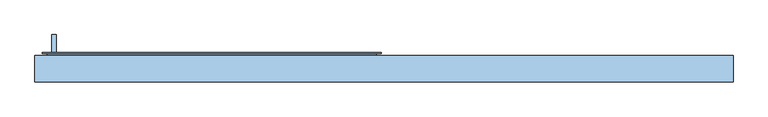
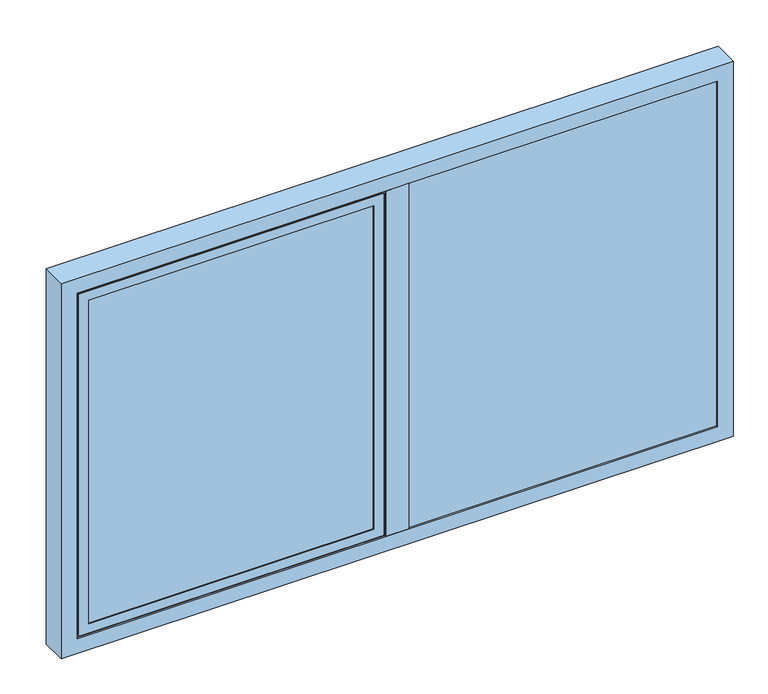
"""IFC4 building model written with IfcOpenShell, lengths in millimetres: window geometry, Reynaers_MasterLine 10_Window_Inward Opening_Combined : Reynaers_MasterLine 10_Window_Inward Opening_Combined."""

from ifc_helpers import new_model, si_unit, frame, origin, place, context, project, spatial, polyline, outline, extrude, faceted_brep, source, transform, mapped, element, save


def window_5ffe221b(model_context):
    return source(origin(), model_context, "Body", "SolidModel", [
        extrude(outline(polyline([(102.0, 1570.0), (102.0, 1585.0), (167.0, 1585.0), (167.0, 1450.0), (152.0, 1450.0), (152.0, 1570.0), (102.0, 1570.0)])), frame((-1208.0, 0.0, 0.0), z_axis=(1.0, 0.0, 0.0), x_axis=(0.0, 1.0, 0.0)), (0.0, 0.0, 1.0), 15.0),
        faceted_brep([(16.5, -1.0, 853.0), (-16.5, -1.0, 853.0), (-16.5, 92.0, 853.0), (16.5, 92.0, 853.0), (-16.5, -1.0, 2287.0), (16.5, -1.0, 2287.0), (16.5, 92.0, 2287.0), (-16.5, 92.0, 2287.0), (43.5, -5.0, 880.0), (43.5, -1.0, 880.0), (43.5, -1.0, 2260.0), (43.5, -5.0, 2260.0), (16.5, -1.0, 880.0), (16.5, -1.0, 2260.0), (-16.5, -1.0, 880.0), (-16.5, -1.0, 2260.0), (-43.5, -1.0, 880.0), (-43.5, -1.0, 2260.0), (-43.5, -5.0, 880.0), (-43.5, -5.0, 2260.0)], [[[0, 1, 2, 3]], [[4, 5, 6, 7]], [[8, 9, 10, 11]], [[9, 12, 13, 10]], [[3, 6, 5, 13, 12, 0]], [[2, 7, 6, 3]], [[1, 14, 15, 4, 7, 2]], [[14, 16, 17, 15]], [[16, 18, 19, 17]], [[11, 19, 18, 8]], [[13, 5, 4, 15]], [[14, 1, 0, 12]], [[12, 9, 8, 18, 16, 14]], [[15, 17, 19, 11, 10, 13]]]),
        extrude(outline(polyline([(2287.0, 1237.0), (2287.0, 16.5), (853.0, 16.5), (853.0, 1237.0), (2287.0, 1237.0)]), holes=[polyline([(2262.0, 41.5), (2262.0, 1212.0), (878.0, 1212.0), (878.0, 41.5), (2262.0, 41.5)])]), frame((0.0, 34.6, 0.0), z_axis=(0.0, 1.0, 0.0), x_axis=(0.0, 0.0, 1.0)), (0.0, 0.0, 1.0), 57.4),
        faceted_brep([(1270.0, 92.0, 820.0), (1270.0, 92.0, 2320.0), (1270.0, -5.0, 2320.0), (1270.0, -5.0, 820.0), (1210.0, -5.0, 880.0), (1210.0, -5.0, 2260.0), (1210.0, -1.0, 2260.0), (1210.0, -1.0, 880.0), (-1270.0, 92.0, 2320.0), (-1270.0, -5.0, 2320.0), (-1210.0, -5.0, 2260.0), (-1210.0, -1.0, 2260.0), (-1270.0, 92.0, 820.0), (-1270.0, -5.0, 820.0), (-1210.0, -5.0, 880.0), (-1210.0, -1.0, 880.0), (1237.0, 92.0, 853.0), (1237.0, 92.0, 2287.0), (-1237.0, 92.0, 2287.0), (-1237.0, 92.0, 853.0), (1237.0, -1.0, 2287.0), (-1237.0, -1.0, 2287.0), (-1237.0, -1.0, 853.0), (1237.0, -1.0, 853.0)], [[[0, 1, 2, 3]], [[4, 5, 6, 7]], [[1, 8, 9, 2]], [[5, 10, 11, 6]], [[8, 12, 13, 9]], [[10, 14, 15, 11]], [[3, 2, 9, 13], [5, 4, 14, 10]], [[12, 0, 3, 13]], [[1, 0, 12, 8], [16, 17, 18, 19]], [[14, 4, 7, 15]], [[20, 21, 18, 17]], [[21, 22, 19, 18]], [[22, 23, 16, 19]], [[23, 20, 17, 16]], [[21, 20, 23, 22], [6, 11, 15, 7]]]),
        faceted_brep([(-50.5, -0.2000001, 887.0), (-50.5, -0.2000001, 2253.0), (-50.5, -5.0, 2253.0), (-50.5, -5.0, 887.0), (-87.5, -5.0, 924.0), (-87.5, -5.0, 2216.0), (-87.5, -1.0000001, 2216.0), (-87.5, -1.0000001, 924.0), (-1203.0, -0.2000001, 2253.0), (-1203.0, -5.0, 2253.0), (-1166.0, -5.0, 2216.0), (-1166.0, -1.0000001, 2216.0), (-1203.0, -0.2000001, 887.0), (-1203.0, -5.0, 887.0), (-1166.0, -5.0, 924.0), (-1166.0, -1.0000001, 924.0), (-10.5, 102.0, 2293.0), (-10.5, 102.0, 847.0), (-1243.0, 102.0, 847.0), (-1243.0, 102.0, 2293.0), (-60.5, 102.0, 897.0), (-60.5, 102.0, 2243.0), (-1193.0, 102.0, 2243.0), (-1193.0, 102.0, 897.0), (-60.5, -1.0000001, 2243.0), (-1193.0, -1.0000001, 2243.0), (-1193.0, -1.0000001, 897.0), (-60.5, -1.0000001, 897.0), (-28.0, 98.0, 2275.5), (-1225.5, 98.0, 2275.5), (-1225.5, -0.2000001, 2275.5), (-28.0, -0.2000001, 2275.5), (-1243.0, 98.0, 2293.0), (-10.5, 98.0, 2293.0), (-1225.5, 98.0, 864.5), (-1225.5, -0.2000001, 864.5), (-1243.0, 98.0, 847.0), (-28.0, 98.0, 864.5), (-28.0, -0.2000001, 864.5), (-10.5, 98.0, 847.0)], [[[0, 1, 2, 3]], [[4, 5, 6, 7]], [[1, 8, 9, 2]], [[5, 10, 11, 6]], [[8, 12, 13, 9]], [[10, 14, 15, 11]], [[3, 2, 9, 13], [5, 4, 14, 10]], [[12, 0, 3, 13]], [[16, 17, 18, 19], [20, 21, 22, 23]], [[14, 4, 7, 15]], [[24, 25, 22, 21]], [[25, 26, 23, 22]], [[26, 27, 20, 23]], [[27, 24, 21, 20]], [[25, 24, 27, 26], [6, 11, 15, 7]], [[28, 29, 30, 31]], [[16, 19, 32, 33]], [[29, 34, 35, 30]], [[19, 18, 36, 32]], [[34, 37, 38, 35]], [[18, 17, 39, 36]], [[31, 30, 35, 38], [8, 1, 0, 12]], [[37, 28, 31, 38]], [[33, 32, 36, 39], [29, 28, 37, 34]], [[17, 16, 33, 39]]]),
        extrude(outline(polyline([(2243.0, -60.5), (2243.0, -1193.0), (897.0, -1193.0), (897.0, -60.5), (2243.0, -60.5)]), holes=[polyline([(2218.0, -1168.0), (2218.0, -85.5), (922.0, -85.5), (922.0, -1168.0), (2218.0, -1168.0)])]), frame((0.0, 36.7, 0.0), z_axis=(0.0, 1.0, 0.0), x_axis=(0.0, 0.0, 1.0)), (0.0, 0.0, 1.0), 65.3),
        extrude(outline(polyline([(1229.0, 30.0), (1229.0, 3.0), (24.5, 3.0), (24.5, 30.0), (1229.0, 30.0)])), frame((0.0, 0.0, 861.0), z_axis=(0.0, 0.0, 1.0), x_axis=(1.0, 0.0, 0.0)), (0.0, 0.0, 1.0), 1418.0),
        extrude(outline(polyline([(-68.5, 30.0), (-68.5, 3.0), (-1185.0, 3.0), (-1185.0, 30.0), (-68.5, 30.0)])), frame((0.0, 0.0, 905.0), z_axis=(0.0, 0.0, 1.0), x_axis=(1.0, 0.0, 0.0)), (0.0, 0.0, 1.0), 1330.0),
    ])


if __name__ == "__main__":
    model = new_model("IFC4")
    model_context = context("Model", 3, world=origin())
    ifc_project = project(units=[si_unit("LENGTHUNIT", "METRE", prefix="MILLI")], contexts=[model_context])
    site = spatial("IfcSite", under=ifc_project)
    building = spatial("IfcBuilding", under=site)
    placement = place(None, origin())
    window_shape = window_5ffe221b(model_context)
    element("IfcWindow", 1, ObjectType="Reynaers_MasterLine 10_Window_Inward Opening_Combined : Reynaers_MasterLine 10_Window_Inward Opening_Combined", at=placement, inside=building, context=model_context, shape_type="MappedRepresentation", body=[
        mapped(window_shape, transform((0.0, 0.0, 0.0), x_axis=(1.0, 0.0, 0.0), y_axis=(0.0, 1.0, 0.0), z_axis=(0.0, 0.0, 1.0))),
    ])
    save(model, "model.ifc")
